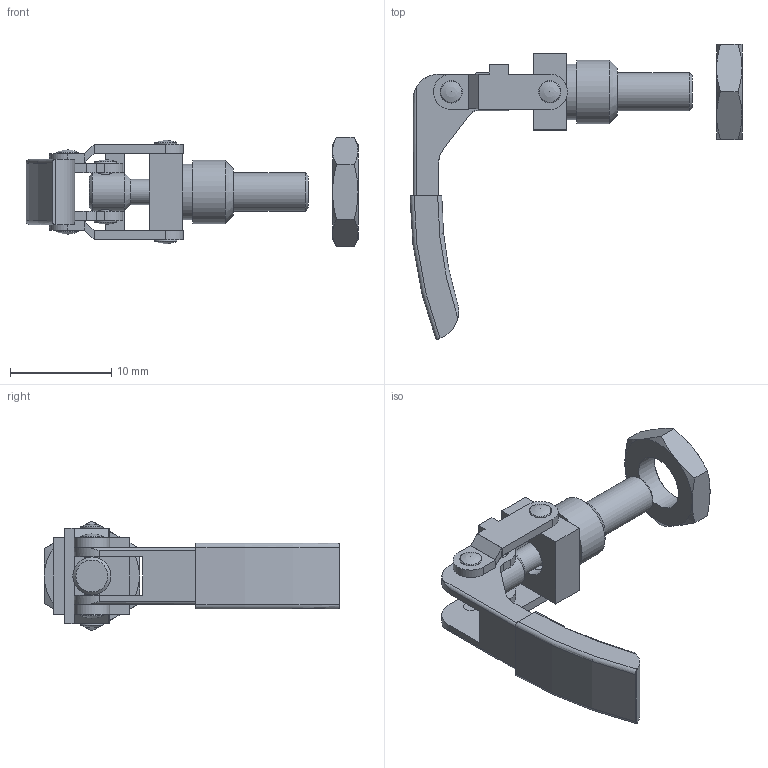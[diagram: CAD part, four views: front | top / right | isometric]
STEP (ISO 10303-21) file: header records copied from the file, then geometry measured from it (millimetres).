
FILE_DESCRIPTION((' '),'2;1');
FILE_NAME('C:\Users\Nick\Desktop\PHL Sereis\PHL-253\3D\phl-253.stp','2015-07-24T15:08:01',(' '),(' '),' ','ACIS',' ');
FILE_SCHEMA(('CONFIG_CONTROL_DESIGN'));
Length unit declared in the file: inch
Products named in the file (18): C:\Users\Nick\Desktop\PHL Sereis\PHL-253\3D\phl-253.stp; Body1; Body2; Body3; Body4; Body5; Body6; Body7; Body8; Body9; Body10; Body11; Body12; Body13; Body14; Body15; Body16; Body17
Assembly tree (17 placements, depth 2):
  C:\Users\Nick\Desktop\PHL Sereis\PHL-253\3D\phl-253.stp
    Body1
    Body2
    Body3
    Body4
    Body5
    Body6
    Body7
    Body8
    Body9
    Body10
    Body11
    Body12
    Body13
    Body14
    Body15
    Body16
    Body17
Bounding box: 32.72 x 29.1 x 10.83 mm (x, y, z)
Volume: 1147.5 mm3; surface area: 2273.4 mm2
Topology: 17 solids, 17 shells, 173 faces, 392 edges, 253 vertices
Faces by surface type: plane 88, cylinder 48, cone 19, torus 12, sphere 6
Full cylindrical faces by diameter (mm): 1.34 x2, 1.39 x4, 1.42 x6, 1.44 x4, 1.47 x1, 2.01 x1, 2.5 x1, 3.75 x2, 3.76 x2, 5.5 x1, 5.517 x1, 6.25 x1
Entity records: 7268 total; most frequent: CARTESIAN_POINT 1029, DIRECTION 841, ORIENTED_EDGE 658, AXIS2_PLACEMENT_3D 340, EDGE_CURVE 329, EDGE_LOOP 247, VERTEX_POINT 236, PERSON 178
